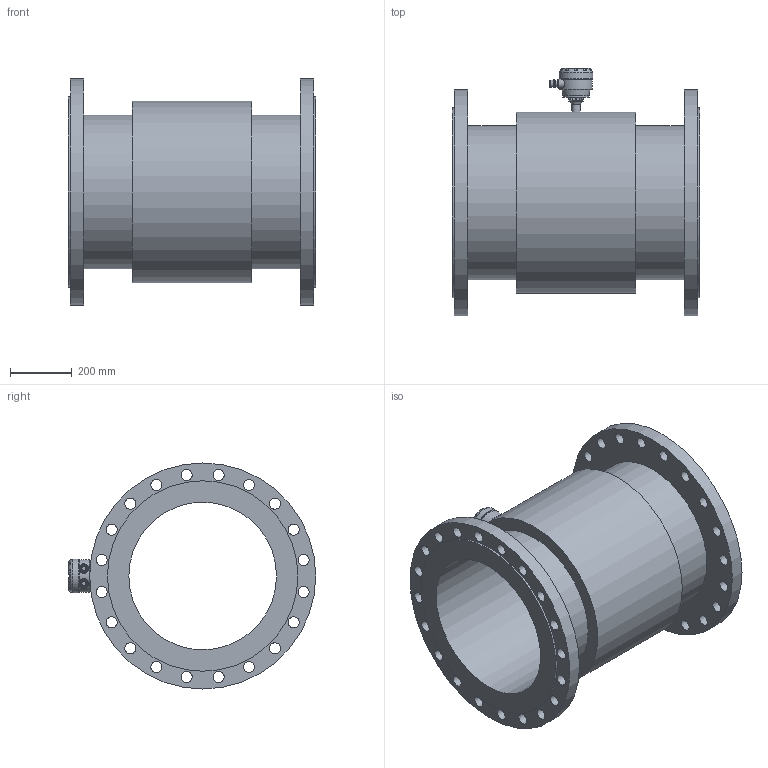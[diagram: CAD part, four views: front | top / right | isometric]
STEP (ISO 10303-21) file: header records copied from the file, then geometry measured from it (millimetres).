
FILE_DESCRIPTION (( 'STEP AP203' ), '1' );
FILE_NAME ('KROHNE_OPTIFLUX_2-4000W_DIN2634_DN500_PN25.STEP', '2011-04-26T11:25:33', ( '' ), ( '' ), 'SwSTEP 2.0', 'SolidWorks 2010', '' );
FILE_SCHEMA (( 'CONFIG_CONTROL_DESIGN' ));
Length unit declared in the file: millimetre
Products named in the file (1): KROHNE_OPTIFLUX_2-4000W_DIN2634_DN500_PN25
Bounding box: 800 x 798.99 x 730 mm (x, y, z)
Volume: 61318590.5 mm3; surface area: 3923365.5 mm2
Topology: 14 solids, 14 shells, 367 faces, 931 edges, 614 vertices
Faces by surface type: plane 158, cylinder 119, bspline 53, torus 18, sphere 13, cone 6
Full cylindrical faces by diameter (mm): 4 x4, 6.6 x8, 13 x2, 20 x2, 23.5 x4, 29 x1, 30 x2, 36 x40, 84 x2, 109 x1, 477 x1, 497 x2, 585 x1, 615 x2, 730 x2
Entity records: 14795 total; most frequent: CARTESIAN_POINT 6616, DIRECTION 1557, ORIENTED_EDGE 1554, EDGE_CURVE 777, EDGE_LOOP 598, AXIS2_PLACEMENT_3D 597, VERTEX_POINT 561, FACE_OUTER_BOUND 458
